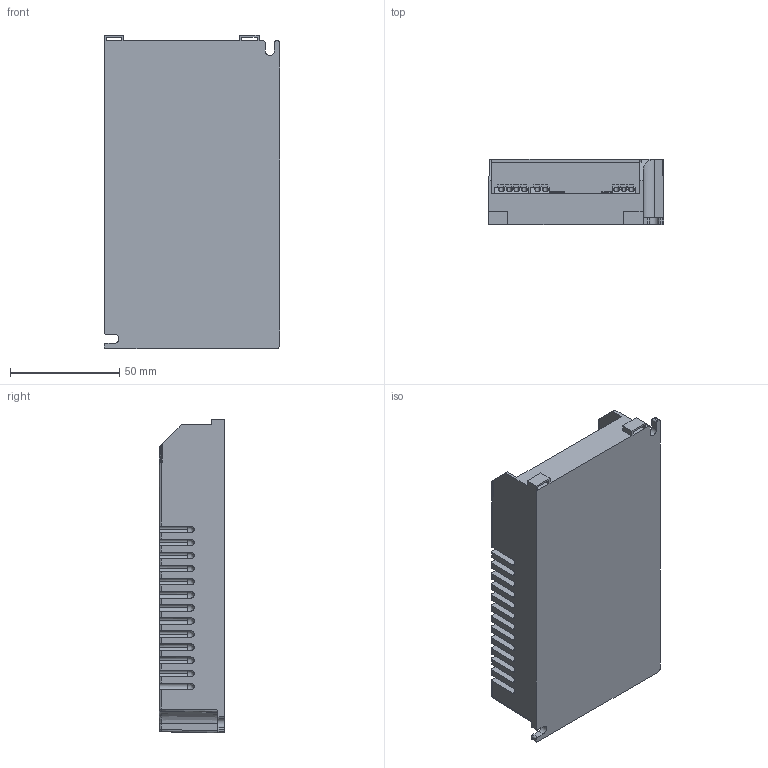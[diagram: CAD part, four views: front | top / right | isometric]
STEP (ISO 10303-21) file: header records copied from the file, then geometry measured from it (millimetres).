
FILE_DESCRIPTION (( 'STEP AP214' ), '1' );
FILE_NAME ('LC150HE-CC.STEP', '2021-03-09T18:17:27', ( '' ), ( '' ), 'SwSTEP 2.0', 'SolidWorks 2014', '' );
FILE_SCHEMA (( 'AUTOMOTIVE_DESIGN' ));
Length unit declared in the file: millimetre
Products named in the file (1): LC150HE-CC
Bounding box: 80.5 x 30 x 143.8 mm (x, y, z)
Volume: 293669.1 mm3; surface area: 49227.7 mm2
Topology: 1 solids, 1 shells, 381 faces, 1094 edges, 724 vertices
Faces by surface type: plane 207, cylinder 149, bspline 22, sphere 2, cone 1
Entity records: 14063 total; most frequent: CARTESIAN_POINT 4431, ORIENTED_EDGE 2188, DIRECTION 1805, EDGE_CURVE 1094, LINE 725, VECTOR 725, VERTEX_POINT 724, AXIS2_PLACEMENT_3D 540
